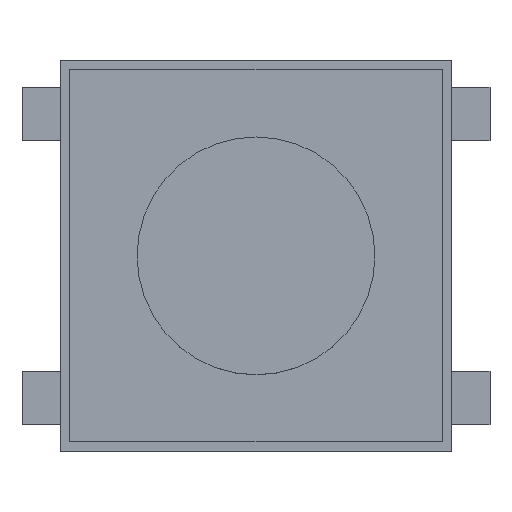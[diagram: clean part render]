
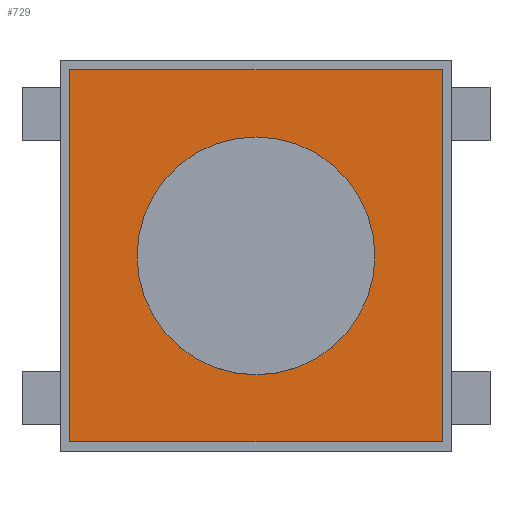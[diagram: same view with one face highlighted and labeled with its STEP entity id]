
A CAD part, top view. The second image highlights one B-rep face of the part: STEP entity #729.
In plain terms, the highlighted planar face has unit normal (0, 0, 1).
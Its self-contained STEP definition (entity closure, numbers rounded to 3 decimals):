
#415 = VERTEX_POINT('',#416);
#416 = CARTESIAN_POINT('',(-2.425,-2.425,1.15));
#423 = PLANE('',#424);
#424 = AXIS2_PLACEMENT_3D('',#425,#426,#427);
#425 = CARTESIAN_POINT('',(-2.425,-2.425,1.));
#426 = DIRECTION('',(1.,0.,0.));
#427 = DIRECTION('',(0.,0.,1.));
#435 = PLANE('',#436);
#436 = AXIS2_PLACEMENT_3D('',#437,#438,#439);
#437 = CARTESIAN_POINT('',(-2.425,-2.425,1.));
#438 = DIRECTION('',(0.,1.,0.));
#439 = DIRECTION('',(0.,0.,1.));
#476 = VERTEX_POINT('',#477);
#477 = CARTESIAN_POINT('',(-2.425,2.425,1.15));
#491 = PLANE('',#492);
#492 = AXIS2_PLACEMENT_3D('',#493,#494,#495);
#493 = CARTESIAN_POINT('',(-2.425,2.425,1.));
#494 = DIRECTION('',(0.,1.,0.));
#495 = DIRECTION('',(0.,0.,1.));
#503 = EDGE_CURVE('',#415,#476,#504,.T.);
#504 = SURFACE_CURVE('',#505,(#509,#516),.PCURVE_S1.);
#505 = LINE('',#506,#507);
#506 = CARTESIAN_POINT('',(-2.425,-2.425,1.15));
#507 = VECTOR('',#508,1.);
#508 = DIRECTION('',(0.,1.,0.));
#509 = PCURVE('',#423,#510);
#510 = DEFINITIONAL_REPRESENTATION('',(#511),#515);
#511 = LINE('',#512,#513);
#512 = CARTESIAN_POINT('',(0.15,0.));
#513 = VECTOR('',#514,1.);
#514 = DIRECTION('',(0.,-1.));
#515 = ( GEOMETRIC_REPRESENTATION_CONTEXT(2) 
PARAMETRIC_REPRESENTATION_CONTEXT() REPRESENTATION_CONTEXT('2D SPACE',''
  ) );
#516 = PCURVE('',#517,#522);
#517 = PLANE('',#518);
#518 = AXIS2_PLACEMENT_3D('',#519,#520,#521);
#519 = CARTESIAN_POINT('',(-2.425,-2.425,1.15));
#520 = DIRECTION('',(0.,0.,1.));
#521 = DIRECTION('',(1.,0.,0.));
#522 = DEFINITIONAL_REPRESENTATION('',(#523),#527);
#523 = LINE('',#524,#525);
#524 = CARTESIAN_POINT('',(0.,0.));
#525 = VECTOR('',#526,1.);
#526 = DIRECTION('',(0.,1.));
#527 = ( GEOMETRIC_REPRESENTATION_CONTEXT(2) 
PARAMETRIC_REPRESENTATION_CONTEXT() REPRESENTATION_CONTEXT('2D SPACE',''
  ) );
#535 = VERTEX_POINT('',#536);
#536 = CARTESIAN_POINT('',(2.425,-2.425,1.15));
#543 = PLANE('',#544);
#544 = AXIS2_PLACEMENT_3D('',#545,#546,#547);
#545 = CARTESIAN_POINT('',(2.425,-2.425,1.));
#546 = DIRECTION('',(1.,0.,0.));
#547 = DIRECTION('',(0.,0.,1.));
#586 = VERTEX_POINT('',#587);
#587 = CARTESIAN_POINT('',(2.425,2.425,1.15));
#608 = EDGE_CURVE('',#535,#586,#609,.T.);
#609 = SURFACE_CURVE('',#610,(#614,#621),.PCURVE_S1.);
#610 = LINE('',#611,#612);
#611 = CARTESIAN_POINT('',(2.425,-2.425,1.15));
#612 = VECTOR('',#613,1.);
#613 = DIRECTION('',(0.,1.,0.));
#614 = PCURVE('',#543,#615);
#615 = DEFINITIONAL_REPRESENTATION('',(#616),#620);
#616 = LINE('',#617,#618);
#617 = CARTESIAN_POINT('',(0.15,0.));
#618 = VECTOR('',#619,1.);
#619 = DIRECTION('',(0.,-1.));
#620 = ( GEOMETRIC_REPRESENTATION_CONTEXT(2) 
PARAMETRIC_REPRESENTATION_CONTEXT() REPRESENTATION_CONTEXT('2D SPACE',''
  ) );
#621 = PCURVE('',#517,#622);
#622 = DEFINITIONAL_REPRESENTATION('',(#623),#627);
#623 = LINE('',#624,#625);
#624 = CARTESIAN_POINT('',(4.85,0.));
#625 = VECTOR('',#626,1.);
#626 = DIRECTION('',(0.,1.));
#627 = ( GEOMETRIC_REPRESENTATION_CONTEXT(2) 
PARAMETRIC_REPRESENTATION_CONTEXT() REPRESENTATION_CONTEXT('2D SPACE',''
  ) );
#654 = EDGE_CURVE('',#415,#535,#655,.T.);
#655 = SURFACE_CURVE('',#656,(#660,#667),.PCURVE_S1.);
#656 = LINE('',#657,#658);
#657 = CARTESIAN_POINT('',(-2.425,-2.425,1.15));
#658 = VECTOR('',#659,1.);
#659 = DIRECTION('',(1.,0.,0.));
#660 = PCURVE('',#435,#661);
#661 = DEFINITIONAL_REPRESENTATION('',(#662),#666);
#662 = LINE('',#663,#664);
#663 = CARTESIAN_POINT('',(0.15,0.));
#664 = VECTOR('',#665,1.);
#665 = DIRECTION('',(0.,1.));
#666 = ( GEOMETRIC_REPRESENTATION_CONTEXT(2) 
PARAMETRIC_REPRESENTATION_CONTEXT() REPRESENTATION_CONTEXT('2D SPACE',''
  ) );
#667 = PCURVE('',#517,#668);
#668 = DEFINITIONAL_REPRESENTATION('',(#669),#673);
#669 = LINE('',#670,#671);
#670 = CARTESIAN_POINT('',(0.,0.));
#671 = VECTOR('',#672,1.);
#672 = DIRECTION('',(1.,0.));
#673 = ( GEOMETRIC_REPRESENTATION_CONTEXT(2) 
PARAMETRIC_REPRESENTATION_CONTEXT() REPRESENTATION_CONTEXT('2D SPACE',''
  ) );
#701 = EDGE_CURVE('',#476,#586,#702,.T.);
#702 = SURFACE_CURVE('',#703,(#707,#714),.PCURVE_S1.);
#703 = LINE('',#704,#705);
#704 = CARTESIAN_POINT('',(-2.425,2.425,1.15));
#705 = VECTOR('',#706,1.);
#706 = DIRECTION('',(1.,0.,0.));
#707 = PCURVE('',#491,#708);
#708 = DEFINITIONAL_REPRESENTATION('',(#709),#713);
#709 = LINE('',#710,#711);
#710 = CARTESIAN_POINT('',(0.15,0.));
#711 = VECTOR('',#712,1.);
#712 = DIRECTION('',(0.,1.));
#713 = ( GEOMETRIC_REPRESENTATION_CONTEXT(2) 
PARAMETRIC_REPRESENTATION_CONTEXT() REPRESENTATION_CONTEXT('2D SPACE',''
  ) );
#714 = PCURVE('',#517,#715);
#715 = DEFINITIONAL_REPRESENTATION('',(#716),#720);
#716 = LINE('',#717,#718);
#717 = CARTESIAN_POINT('',(0.,4.85));
#718 = VECTOR('',#719,1.);
#719 = DIRECTION('',(1.,0.));
#720 = ( GEOMETRIC_REPRESENTATION_CONTEXT(2) 
PARAMETRIC_REPRESENTATION_CONTEXT() REPRESENTATION_CONTEXT('2D SPACE',''
  ) );
#729 = ADVANCED_FACE('',(#730),#517,.T.);
#730 = FACE_BOUND('',#731,.T.);
#731 = EDGE_LOOP('',(#732,#733,#734,#735));
#732 = ORIENTED_EDGE('',*,*,#503,.F.);
#733 = ORIENTED_EDGE('',*,*,#654,.T.);
#734 = ORIENTED_EDGE('',*,*,#608,.T.);
#735 = ORIENTED_EDGE('',*,*,#701,.F.);
